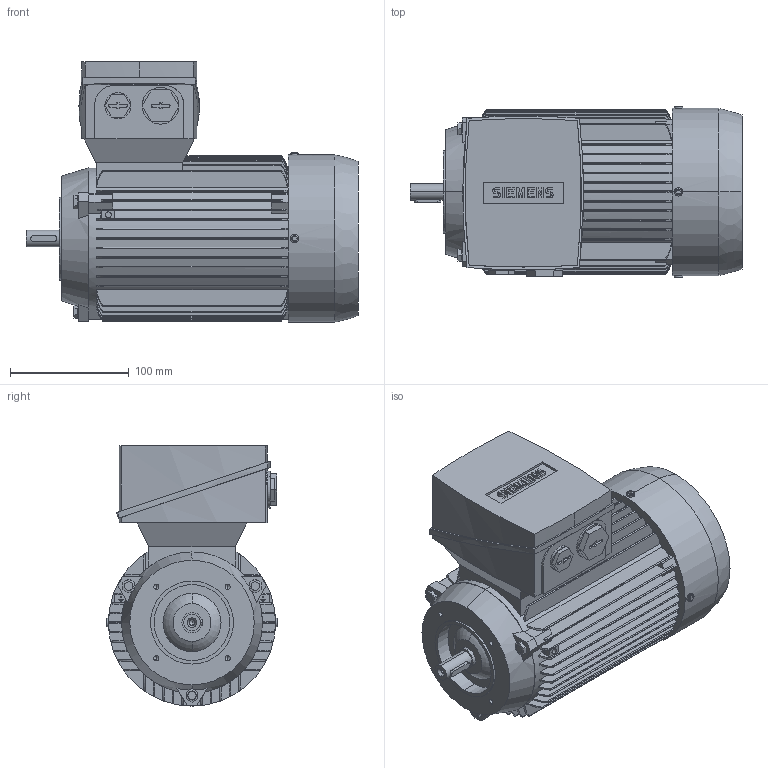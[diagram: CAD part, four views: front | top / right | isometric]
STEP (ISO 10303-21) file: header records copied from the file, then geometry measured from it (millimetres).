
FILE_DESCRIPTION(('STEP AP214'),'1');
FILE_NAME('cctmp_3BFA70C8-9A83-4B69-B8DC-463AF3C2835A_2021_11_3_11_23_55_355..stp','2021-11-03T10:23:55',('SIEMENS A&D'),('CADClick - www.CADClick.com'),'Spatial InterOp 3D',' ','unknown authorization');
FILE_SCHEMA(('AUTOMOTIVE_DESIGN'));
Length unit declared in the file: millimetre
Products named in the file (1): 2021_11_03__11-23-55-340
Bounding box: 280 x 145 x 219.5 mm (x, y, z)
Volume: 4056828.8 mm3; surface area: 325552.8 mm2
Topology: 1 solids, 1 shells, 718 faces, 1939 edges, 1265 vertices
Faces by surface type: plane 429, cylinder 169, torus 92, cone 28
Entity records: 32936 total; most frequent: CARTESIAN_POINT 9617, ORIENTED_EDGE 3822, DIRECTION 3389, EDGE_CURVE 1911, VERTEX_POINT 1265, AXIS2_PLACEMENT_3D 1146, LINE 1097, VECTOR 1097
